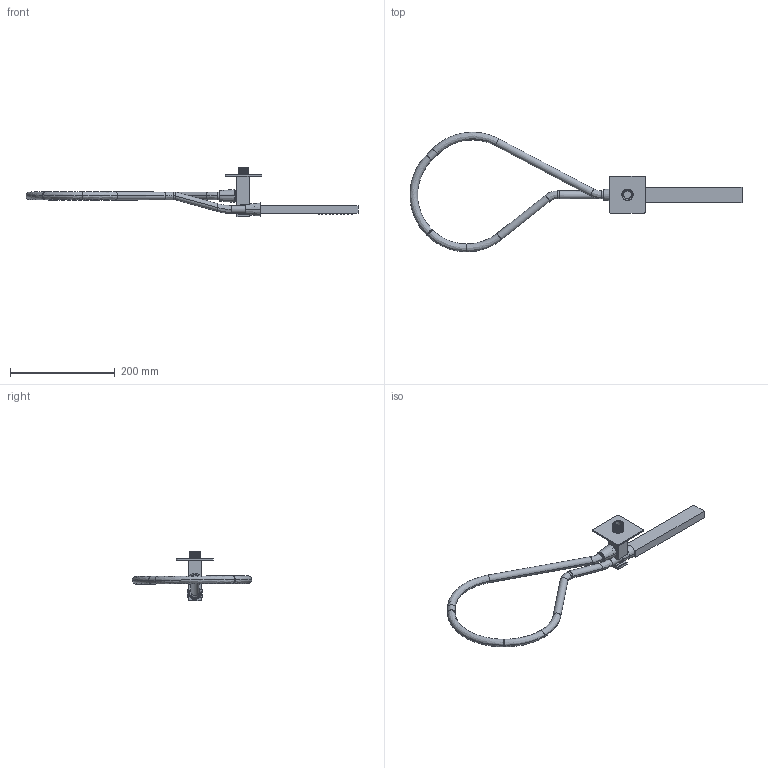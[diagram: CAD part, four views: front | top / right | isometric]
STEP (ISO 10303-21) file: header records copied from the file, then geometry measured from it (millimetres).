
FILE_DESCRIPTION (( 'STEP AP203' ), '1' );
FILE_NAME ('K12.STEP', '2024-04-15T13:35:59', ( '' ), ( '' ), 'SwSTEP 2.0', 'SolidWorks 2023', '' );
FILE_SCHEMA (( 'CONFIG_CONTROL_DESIGN' ));
Length unit declared in the file: millimetre
Products named in the file (6): DOC7; C47.00.0186.01; K12; C24.2671.00; C16.13.0001; PRE18
Assembly tree (5 placements, depth 3):
  K12
    PRE18
      C47.00.0186.01
      C24.2671.00
    C16.13.0001
    DOC7
Bounding box: 633.15 x 228.11 x 95 mm (x, y, z)
Volume: 318883.5 mm3; surface area: 93605.1 mm2
Topology: 4 solids, 4 shells, 378 faces, 810 edges, 512 vertices
Faces by surface type: cylinder 133, plane 122, cone 72, bspline 27, torus 21, sphere 3
Entity records: 14229 total; most frequent: CARTESIAN_POINT 5339, DIRECTION 1860, ORIENTED_EDGE 1618, EDGE_CURVE 809, AXIS2_PLACEMENT_3D 772, VERTEX_POINT 512, EDGE_LOOP 453, CIRCLE 412
